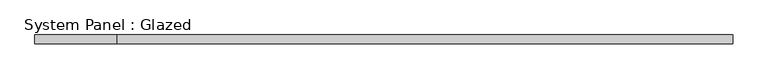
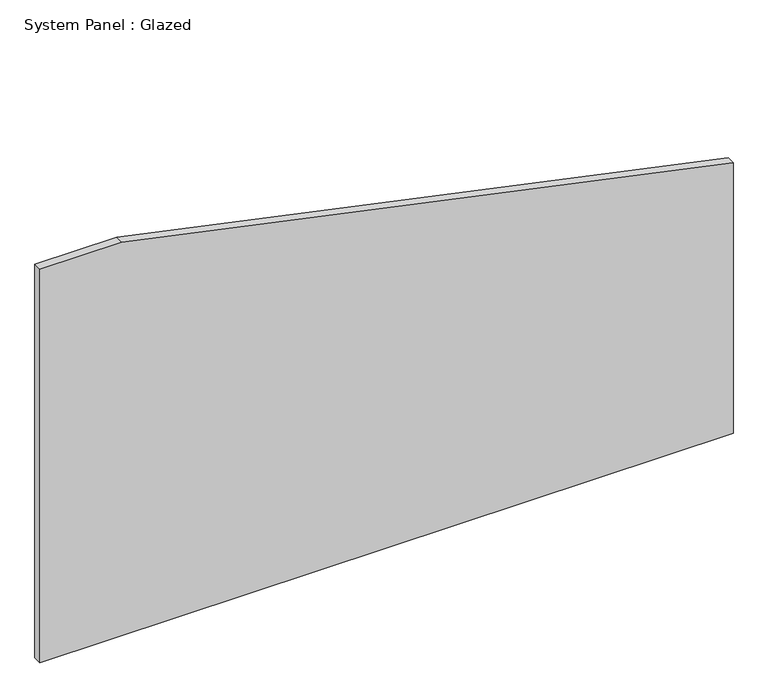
"""IFC4 building model written with IfcOpenShell, lengths in millimetres: plate geometry, System Panel : Glazed."""

from ifc_helpers import new_model, si_unit, frame, origin, place, context, project, spatial, polyline, outline, extrude, source, transform, mapped, element, save


def system_panel_glazed_9fd06ce3(model_context):
    return source(origin(), model_context, "Body", "SweptSolid", [
        extrude(outline(polyline([(0.0, -1000.0), (0.0, 1000.0), (825.1131233, 1000.0), (1200.0, -763.7040876), (1200.0, -1000.0), (0.0, -1000.0)])), frame((0.0, -49.5, 0.0), z_axis=(0.0, 1.0, 0.0), x_axis=(0.0, 0.0, 1.0)), (0.0, 0.0, 1.0), 25.0),
    ])


if __name__ == "__main__":
    model = new_model("IFC4")
    model_context = context("Model", 3, world=origin())
    ifc_project = project(units=[si_unit("LENGTHUNIT", "METRE", prefix="MILLI")], contexts=[model_context])
    site = spatial("IfcSite", under=ifc_project)
    building = spatial("IfcBuilding", under=site)
    placement = place(None, origin())
    system_panel_glazed_shape = system_panel_glazed_9fd06ce3(model_context)
    element("IfcPlate", 1, ObjectType="System Panel : Glazed", at=placement, inside=building, context=model_context, shape_type="MappedRepresentation", body=[
        mapped(system_panel_glazed_shape, transform((0.0, 0.0, 0.0), x_axis=(1.0, 0.0, 0.0), y_axis=(0.0, 1.0, 0.0), z_axis=(0.0, 0.0, 1.0))),
    ])
    save(model, "model.ifc")
